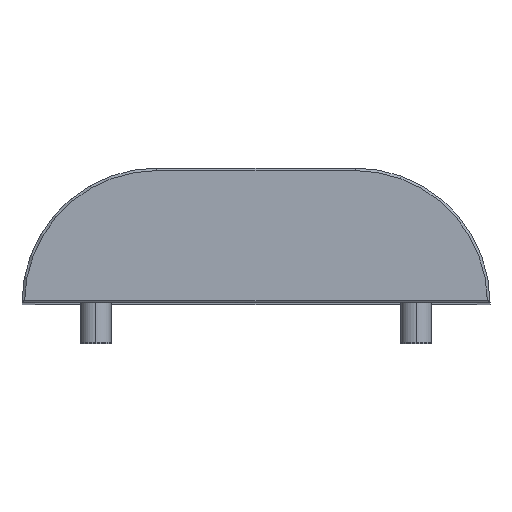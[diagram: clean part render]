
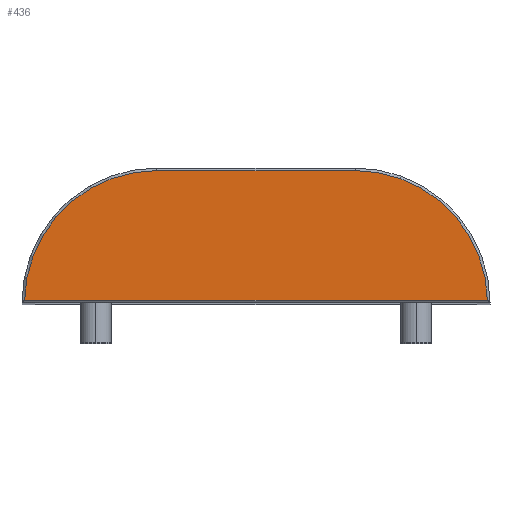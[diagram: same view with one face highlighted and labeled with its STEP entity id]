
A CAD part, top view. The second image highlights one B-rep face of the part: STEP entity #436.
In plain terms, the highlighted planar face has unit normal (0, 0, 1).
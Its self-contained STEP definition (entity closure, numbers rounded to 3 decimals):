
#105 = CARTESIAN_POINT ( 'NONE',  ( -7.8, 10.4, 39. ) ) ;
#112 = CIRCLE ( 'NONE', #1065, 10.4 ) ;
#135 = FACE_OUTER_BOUND ( 'NONE', #1749, .T. ) ;
#153 = PLANE ( 'NONE',  #1302 ) ;
#162 = VECTOR ( 'NONE', #1195, 1000. ) ;
#191 = LINE ( 'NONE', #211, #162 ) ;
#211 = CARTESIAN_POINT ( 'NONE',  ( 7.8, 0.2, 39. ) ) ;
#295 = CARTESIAN_POINT ( 'NONE',  ( 7.8, 0., 39. ) ) ;
#371 = VERTEX_POINT ( 'NONE', #766 ) ;
#393 = CARTESIAN_POINT ( 'NONE',  ( -7.8, 0., 39. ) ) ;
#411 = VERTEX_POINT ( 'NONE', #1634 ) ;
#436 = ADVANCED_FACE ( 'NONE', ( #135 ), #153, .T. ) ;
#437 = DIRECTION ( 'NONE',  ( 1., 0., 0. ) ) ;
#548 = DIRECTION ( 'NONE',  ( 1., 0., 0. ) ) ;
#585 = EDGE_CURVE ( 'NONE', #371, #411, #191, .T. ) ;
#597 = EDGE_CURVE ( 'NONE', #411, #1380, #112, .T. ) ;
#653 = CARTESIAN_POINT ( 'NONE',  ( 7.8, 0., 39. ) ) ;
#661 = DIRECTION ( 'NONE',  ( -1., 0., 0. ) ) ;
#766 = CARTESIAN_POINT ( 'NONE',  ( -18.198, 0.2, 39. ) ) ;
#795 = DIRECTION ( 'NONE',  ( 1., 0., 0. ) ) ;
#802 = CARTESIAN_POINT ( 'NONE',  ( 7.8, 10.4, 39. ) ) ;
#829 = VERTEX_POINT ( 'NONE', #105 ) ;
#939 = EDGE_CURVE ( 'NONE', #1380, #829, #1170, .T. ) ;
#1065 = AXIS2_PLACEMENT_3D ( 'NONE', #653, #1663, #795 ) ;
#1074 = VECTOR ( 'NONE', #661, 1000. ) ;
#1170 = LINE ( 'NONE', #802, #1074 ) ;
#1185 = ORIENTED_EDGE ( 'NONE', *, *, #939, .T. ) ;
#1195 = DIRECTION ( 'NONE',  ( 1., 0., 0. ) ) ;
#1277 = CIRCLE ( 'NONE', #1599, 10.4 ) ;
#1297 = DIRECTION ( 'NONE',  ( 0., 0., 1. ) ) ;
#1302 = AXIS2_PLACEMENT_3D ( 'NONE', #295, #1297, #437 ) ;
#1377 = CARTESIAN_POINT ( 'NONE',  ( 7.8, 10.4, 39. ) ) ;
#1380 = VERTEX_POINT ( 'NONE', #1377 ) ;
#1394 = DIRECTION ( 'NONE',  ( 0., 0., 1. ) ) ;
#1423 = EDGE_CURVE ( 'NONE', #829, #371, #1277, .T. ) ;
#1599 = AXIS2_PLACEMENT_3D ( 'NONE', #393, #1394, #548 ) ;
#1604 = ORIENTED_EDGE ( 'NONE', *, *, #1423, .T. ) ;
#1634 = CARTESIAN_POINT ( 'NONE',  ( 18.198, 0.2, 39. ) ) ;
#1663 = DIRECTION ( 'NONE',  ( 0., 0., 1. ) ) ;
#1749 = EDGE_LOOP ( 'NONE', ( #1185, #1604, #1806, #1852 ) ) ;
#1806 = ORIENTED_EDGE ( 'NONE', *, *, #585, .T. ) ;
#1852 = ORIENTED_EDGE ( 'NONE', *, *, #597, .T. ) ;
